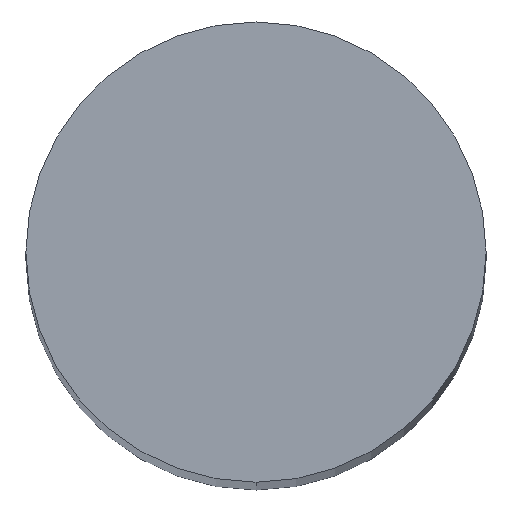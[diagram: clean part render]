
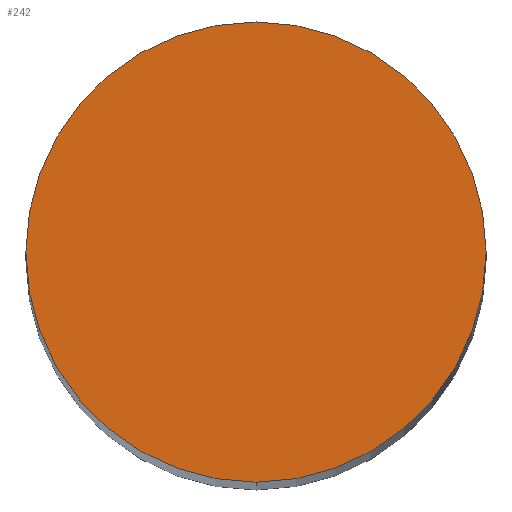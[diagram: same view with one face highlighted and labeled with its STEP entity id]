
A CAD part, top view. The second image highlights one B-rep face of the part: STEP entity #242.
In plain terms, the highlighted planar face has unit normal (0, 0, 1).
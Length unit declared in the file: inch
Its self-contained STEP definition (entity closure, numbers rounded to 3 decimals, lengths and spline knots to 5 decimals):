
#183=CARTESIAN_POINT('',(0.0,-0.0625,1.5));
#184=VERTEX_POINT('',#183);
#191=CARTESIAN_POINT('',(0.0,0.0625,1.5));
#192=VERTEX_POINT('',#191);
#193=CARTESIAN_POINT('',(0.0,0.0,1.5));
#194=DIRECTION('',(0.0,-0.0,-1.0));
#195=DIRECTION('',(0.0,1.0,-0.0));
#196=AXIS2_PLACEMENT_3D('',#193,#194,#195);
#197=CIRCLE('',#196,0.0625);
#198=EDGE_CURVE('no 1609',#184,#192,#197,.T.);
#218=CARTESIAN_POINT('',(0.0,0.0,1.5));
#219=DIRECTION('',(0.0,-0.0,-1.0));
#220=DIRECTION('',(0.0,1.0,-0.0));
#221=AXIS2_PLACEMENT_3D('',#218,#219,#220);
#222=CIRCLE('',#221,0.0625);
#223=EDGE_CURVE('no 1613',#192,#184,#222,.T.);
#233=ORIENTED_EDGE('',*,*,#198,.F.);
#234=ORIENTED_EDGE('',*,*,#223,.F.);
#235=EDGE_LOOP('',(#233,#234));
#236=FACE_OUTER_BOUND('',#235,.T.);
#237=CARTESIAN_POINT('',(0.0625,0.0,1.5));
#238=DIRECTION('',(0.0,0.0,1.0));
#239=DIRECTION('',(0.0,-1.0,0.0));
#240=AXIS2_PLACEMENT_3D('',#237,#238,#239);
#241=PLANE('',#240);
#242=ADVANCED_FACE('no 1737',(#236),#241,.T.);
